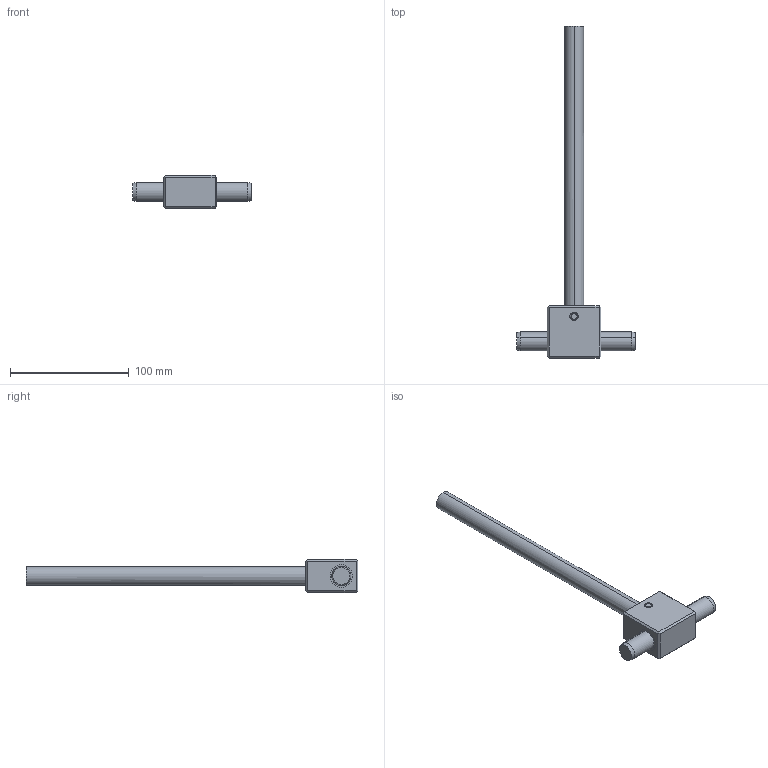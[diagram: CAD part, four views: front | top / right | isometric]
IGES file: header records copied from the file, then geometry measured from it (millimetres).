
Start section: START RECORD GO HERE.
Global section: file name: sd4528gr.igs; native system: DASSAULT SYSTEMES CATIA V5 R20 - www.3ds.com; preprocessor: CATIA Version 5 Release 20 ; author: Utente; organization: NB04-ASUS; date: 20201107.132401; units: millimetre
Bounding box: 100 x 279 x 28 mm (x, y, z)
Surface area: 37312.1 mm2 (no closed solid volume)
Topology: 0 solids, 0 shells, 161 faces, 710 edges, 710 vertices
Faces by surface type: revolution 122, plane 39
